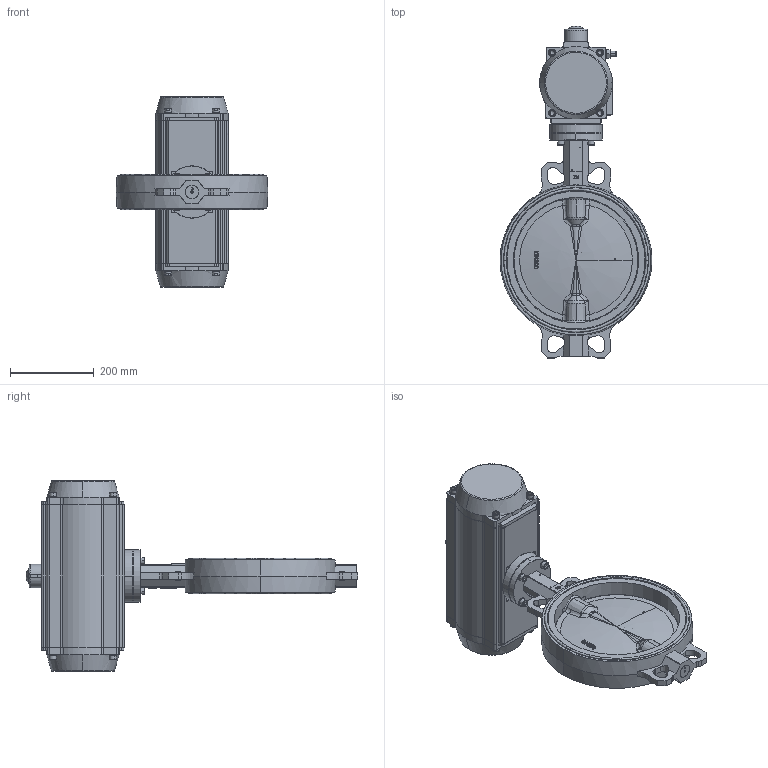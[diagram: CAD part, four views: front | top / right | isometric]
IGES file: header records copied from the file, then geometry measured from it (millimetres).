
Start section: SolidWorks IGES file using NURBS representation for surfaces
Global section: file name: H:\BE BIBLIOTHEQUE 3D\Projet_Biblio3D_2016\FSK\VPI\VPI-N03\VPI-N03 DN300.Igs; native system: SolidWorks 2014; preprocessor: SolidWorks 2014; author: a.cartier; date: 160929.170601; units: millimetre
Bounding box: 363 x 793.67 x 456 mm (x, y, z)
Volume: 9016708.3 mm3; surface area: 1506561.1 mm2
Topology: 57 solids, 59 shells, 2580 faces, 6843 edges, 4348 vertices
Faces by surface type: bspline 2580
